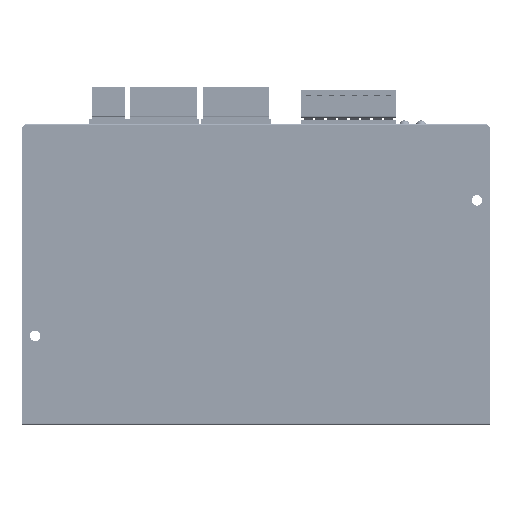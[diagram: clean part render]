
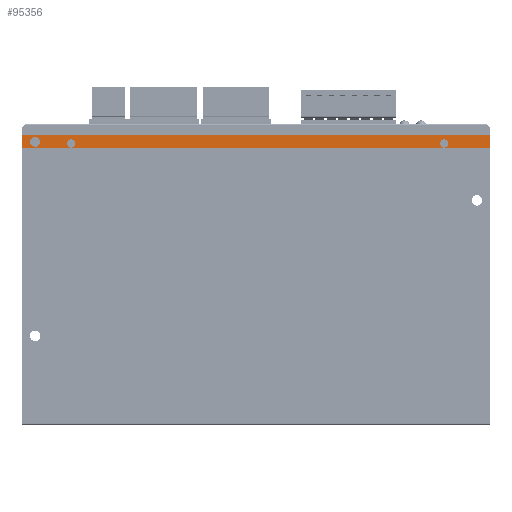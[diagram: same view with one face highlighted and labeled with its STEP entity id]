
A CAD part, front view. The second image highlights one B-rep face of the part: STEP entity #95356.
In plain terms, the highlighted planar face has unit normal (0, -1, 0).
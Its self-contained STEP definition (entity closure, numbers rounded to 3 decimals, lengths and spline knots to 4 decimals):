
#69470=DIRECTION('',(0.,0.,-1.));
#69471=VECTOR('',#69470,0.1614);
#69472=CARTESIAN_POINT('',(2.815,-0.1378,
3.3701));
#69473=LINE('',#69472,#69471);
#69551=DIRECTION('',(0.,0.,-1.));
#69552=VECTOR('',#69551,0.1614);
#69553=CARTESIAN_POINT('',(-2.815,-0.1378,
3.3701));
#69554=LINE('',#69553,#69552);
#70028=DIRECTION('',(-1.,0.,0.));
#70029=VECTOR('',#70028,5.6299);
#70030=CARTESIAN_POINT('',(2.815,-0.1378,
3.3701));
#70031=LINE('',#70030,#70029);
#70032=CARTESIAN_POINT('',(2.2637,-0.1378,
3.2677));
#70033=DIRECTION('',(0.,1.,0.));
#70034=DIRECTION('',(1.,0.,0.));
#70035=AXIS2_PLACEMENT_3D('',#70032,#70033,#70034);
#70037=CARTESIAN_POINT('',(2.2637,-0.1378,
3.2677));
#70038=DIRECTION('',(0.,1.,0.));
#70039=DIRECTION('',(-1.,0.,0.));
#70040=AXIS2_PLACEMENT_3D('',#70037,#70038,#70039);
#70042=CARTESIAN_POINT('',(-2.2244,-0.1378,
3.2677));
#70043=DIRECTION('',(0.,1.,0.));
#70044=DIRECTION('',(1.,0.,0.));
#70045=AXIS2_PLACEMENT_3D('',#70042,#70043,#70044);
#70047=CARTESIAN_POINT('',(-2.2244,-0.1378,
3.2677));
#70048=DIRECTION('',(0.,1.,0.));
#70049=DIRECTION('',(-1.,0.,0.));
#70050=AXIS2_PLACEMENT_3D('',#70047,#70048,#70049);
#70052=CARTESIAN_POINT('',(-2.6575,-0.1378,
3.2874));
#70053=DIRECTION('',(0.,1.,0.));
#70054=DIRECTION('',(0.,0.,1.));
#70055=AXIS2_PLACEMENT_3D('',#70052,#70053,#70054);
#70057=CARTESIAN_POINT('',(-2.6575,-0.1378,
3.2874));
#70058=DIRECTION('',(0.,1.,0.));
#70059=DIRECTION('',(0.,0.,-1.));
#70060=AXIS2_PLACEMENT_3D('',#70057,#70058,#70059);
#70062=DIRECTION('',(-1.,0.,0.));
#70063=VECTOR('',#70062,5.6299);
#70064=CARTESIAN_POINT('',(2.815,-0.1378,
3.2087));
#70065=LINE('',#70064,#70063);
#83740=CARTESIAN_POINT('',(2.815,-0.1378,
3.3701));
#83742=VERTEX_POINT('',#83740);
#83744=CARTESIAN_POINT('',(-2.815,-0.1378,
3.3701));
#83746=VERTEX_POINT('',#83744);
#83985=CARTESIAN_POINT('',(2.313,-0.1378,
3.2677));
#83986=CARTESIAN_POINT('',(2.2145,-0.1378,
3.2677));
#83987=VERTEX_POINT('',#83985);
#83988=VERTEX_POINT('',#83986);
#83989=CARTESIAN_POINT('',(-2.1752,-0.1378,
3.2677));
#83990=CARTESIAN_POINT('',(-2.2736,-0.1378,
3.2677));
#83991=VERTEX_POINT('',#83989);
#83992=VERTEX_POINT('',#83990);
#84061=CARTESIAN_POINT('',(2.815,-0.1378,
3.2087));
#84062=VERTEX_POINT('',#84061);
#84065=CARTESIAN_POINT('',(-2.815,-0.1378,
3.2087));
#84066=VERTEX_POINT('',#84065);
#89125=CARTESIAN_POINT('',(-2.6575,-0.1378,
3.3465));
#89126=CARTESIAN_POINT('',(-2.6575,-0.1378,
3.2283));
#89127=VERTEX_POINT('',#89125);
#89128=VERTEX_POINT('',#89126);
#95326=CARTESIAN_POINT('',(2.815,-0.1378,
3.3701));
#95327=DIRECTION('',(0.,1.,0.));
#95328=DIRECTION('',(0.,0.,-1.));
#95329=AXIS2_PLACEMENT_3D('',#95326,#95327,#95328);
#95330=PLANE('',#95329);
#95331=ORIENTED_EDGE('',*,*,#94828,.T.);
#95333=ORIENTED_EDGE('',*,*,#95332,.T.);
#95334=ORIENTED_EDGE('',*,*,#94883,.F.);
#95335=ORIENTED_EDGE('',*,*,#95319,.F.);
#95336=EDGE_LOOP('',(#95331,#95333,#95334,#95335));
#95337=FACE_OUTER_BOUND('',#95336,.F.);
#95339=ORIENTED_EDGE('',*,*,#95338,.F.);
#95341=ORIENTED_EDGE('',*,*,#95340,.F.);
#95342=EDGE_LOOP('',(#95339,#95341));
#95343=FACE_BOUND('',#95342,.F.);
#95345=ORIENTED_EDGE('',*,*,#95344,.F.);
#95347=ORIENTED_EDGE('',*,*,#95346,.F.);
#95348=EDGE_LOOP('',(#95345,#95347));
#95349=FACE_BOUND('',#95348,.F.);
#95351=ORIENTED_EDGE('',*,*,#95350,.F.);
#95353=ORIENTED_EDGE('',*,*,#95352,.F.);
#95354=EDGE_LOOP('',(#95351,#95353));
#95355=FACE_BOUND('',#95354,.F.);
#95356=ADVANCED_FACE('',(#95337,#95343,#95349,#95355),#95330,.F.);
#70036=CIRCLE('',#70035,0.0492);
#70041=CIRCLE('',#70040,0.0492);
#70046=CIRCLE('',#70045,0.0492);
#70051=CIRCLE('',#70050,0.0492);
#70056=CIRCLE('',#70055,0.0591);
#70061=CIRCLE('',#70060,0.0591);
#94828=EDGE_CURVE('',#83742,#84062,#69473,.T.);
#94883=EDGE_CURVE('',#83746,#84066,#69554,.T.);
#95319=EDGE_CURVE('',#83742,#83746,#70031,.T.);
#95332=EDGE_CURVE('',#84062,#84066,#70065,.T.);
#95338=EDGE_CURVE('',#83987,#83988,#70036,.T.);
#95340=EDGE_CURVE('',#83988,#83987,#70041,.T.);
#95344=EDGE_CURVE('',#83991,#83992,#70046,.T.);
#95346=EDGE_CURVE('',#83992,#83991,#70051,.T.);
#95350=EDGE_CURVE('',#89127,#89128,#70056,.T.);
#95352=EDGE_CURVE('',#89128,#89127,#70061,.T.);
